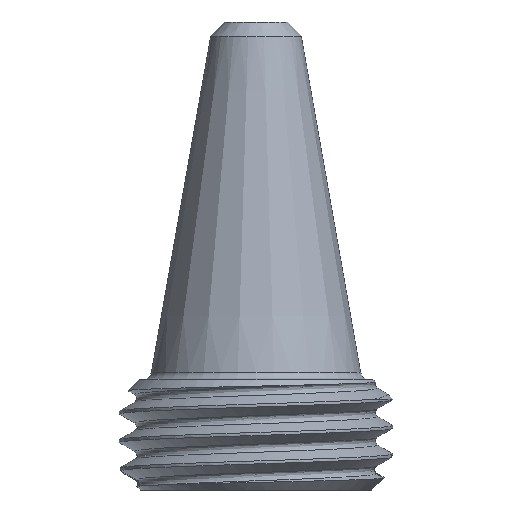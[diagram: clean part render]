
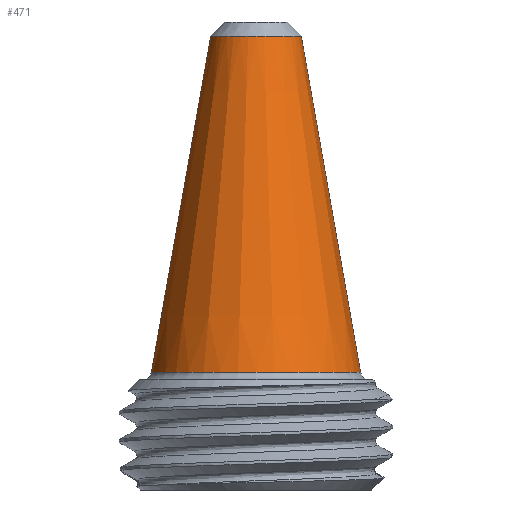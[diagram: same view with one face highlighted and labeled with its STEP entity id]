
A CAD part, front view. The second image highlights one B-rep face of the part: STEP entity #471.
In plain terms, the highlighted conical face has half-angle 10 degrees and reference radius 4.595 mm.
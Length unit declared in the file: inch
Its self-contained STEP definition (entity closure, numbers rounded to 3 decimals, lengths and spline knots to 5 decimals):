
#471 = ADVANCED_FACE ( 'NONE', ( #10068 ), #3940, .T. ) ;
#1900 = ORIENTED_EDGE ( 'NONE', *, *, #6970, .F. ) ;
#2348 = VECTOR ( 'NONE', #10082, 39.37008 ) ;
#2430 = CIRCLE ( 'NONE', #3350, 0.07836 ) ;
#3350 = AXIS2_PLACEMENT_3D ( 'NONE', #15736, #6276, #18653 ) ;
#3508 = EDGE_LOOP ( 'NONE', ( #1900, #17587, #7084, #4651 ) ) ;
#3897 = CARTESIAN_POINT ( 'NONE',  ( 0., 0., 0.20334 ) ) ;
#3940 = CONICAL_SURFACE ( 'NONE', #14768, 0.18089, 0.175 ) ;
#4123 = CARTESIAN_POINT ( 'NONE',  ( -0.07836, 0., 0.78477 ) ) ;
#4651 = ORIENTED_EDGE ( 'NONE', *, *, #7491, .T. ) ;
#4892 = VERTEX_POINT ( 'NONE', #7617 ) ;
#5551 = LINE ( 'NONE', #17676, #2348 ) ;
#5853 = VERTEX_POINT ( 'NONE', #4123 ) ;
#6276 = DIRECTION ( 'NONE',  ( 0., 0., 1. ) ) ;
#6970 = EDGE_CURVE ( 'NONE', #4892, #9693, #5551, .T. ) ;
#7084 = ORIENTED_EDGE ( 'NONE', *, *, #13488, .T. ) ;
#7395 = DIRECTION ( 'NONE',  ( -0.174, 0., -0.985 ) ) ;
#7491 = EDGE_CURVE ( 'NONE', #13596, #9693, #8534, .T. ) ;
#7617 = CARTESIAN_POINT ( 'NONE',  ( 0.07836, 0., 0.78477 ) ) ;
#8534 = CIRCLE ( 'NONE', #10982, 0.18089 ) ;
#9693 = VERTEX_POINT ( 'NONE', #12279 ) ;
#10068 = FACE_OUTER_BOUND ( 'NONE', #3508, .T. ) ;
#10082 = DIRECTION ( 'NONE',  ( 0.174, 0., -0.985 ) ) ;
#10982 = AXIS2_PLACEMENT_3D ( 'NONE', #11524, #11615, #14631 ) ;
#11042 = VECTOR ( 'NONE', #7395, 39.37008 ) ;
#11436 = DIRECTION ( 'NONE',  ( -1., 0., 0. ) ) ;
#11524 = CARTESIAN_POINT ( 'NONE',  ( 0., 0., 0.20334 ) ) ;
#11615 = DIRECTION ( 'NONE',  ( 0., 0., 1. ) ) ;
#12279 = CARTESIAN_POINT ( 'NONE',  ( 0.18089, 0., 0.20334 ) ) ;
#13488 = EDGE_CURVE ( 'NONE', #5853, #13596, #16206, .T. ) ;
#13596 = VERTEX_POINT ( 'NONE', #15439 ) ;
#14437 = DIRECTION ( 'NONE',  ( 0., 0., -1. ) ) ;
#14631 = DIRECTION ( 'NONE',  ( 1., 0., 0. ) ) ;
#14768 = AXIS2_PLACEMENT_3D ( 'NONE', #3897, #14437, #11436 ) ;
#14948 = CARTESIAN_POINT ( 'NONE',  ( -0.18089, 0., 0.20334 ) ) ;
#15439 = CARTESIAN_POINT ( 'NONE',  ( -0.18089, 0., 0.20334 ) ) ;
#15736 = CARTESIAN_POINT ( 'NONE',  ( 0., 0., 0.78477 ) ) ;
#16206 = LINE ( 'NONE', #14948, #11042 ) ;
#17587 = ORIENTED_EDGE ( 'NONE', *, *, #18204, .F. ) ;
#17676 = CARTESIAN_POINT ( 'NONE',  ( 0.18089, 0., 0.20334 ) ) ;
#18204 = EDGE_CURVE ( 'NONE', #5853, #4892, #2430, .T. ) ;
#18653 = DIRECTION ( 'NONE',  ( 1., 0., 0. ) ) ;
